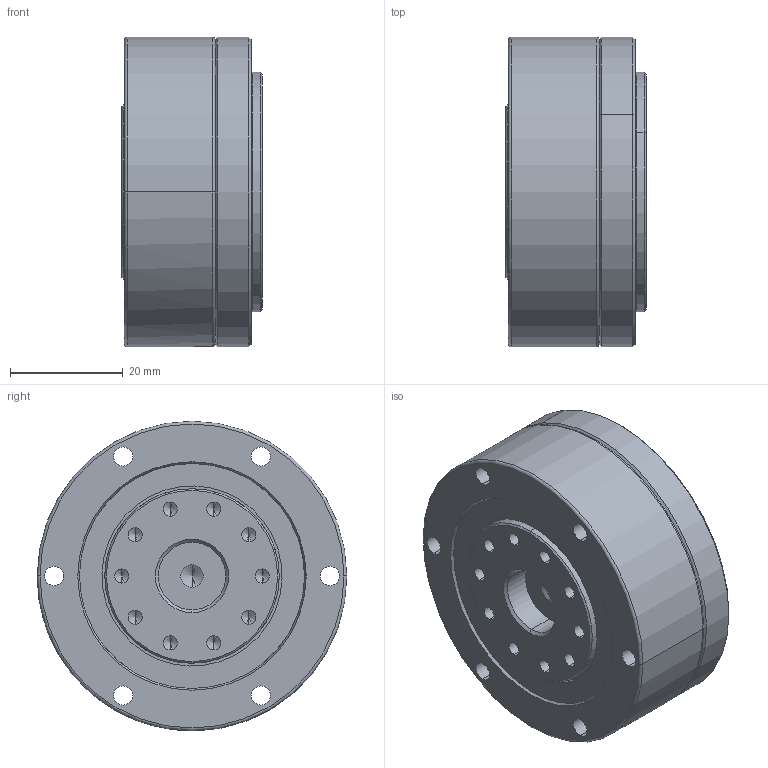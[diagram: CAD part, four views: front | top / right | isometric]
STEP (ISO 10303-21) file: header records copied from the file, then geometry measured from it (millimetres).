
FILE_DESCRIPTION (( 'STEP AP214' ), '1' );
FILE_NAME ('CSD-14-xxx.STEP', '2021-07-17T03:15:06', ( 'PC' ), ( 'Microsoft' ), 'SwSTEP 2.0', 'SolidWorks 2016', '' );
FILE_SCHEMA (( 'AUTOMOTIVE_DESIGN' ));
Length unit declared in the file: millimetre
Products named in the file (13): CSD-14-xxx; 内六角圆柱头螺钉M2×6_預設; hexagon socket head cap screws gb_GB_FASTENER_SCREWS_HSHCS M3X10-N; 14-疏楷汜ん; 芧謫CSD-14; 薄-14柔性轴承; 14-柔轮; 14-詩謫; CSD-14蝠脫粣創; 14-蝠脫粣創黑芛; 蝠脫粣創-蚐猾-CSF-14; 14-交叉轴承外圈; 14-交叉轴承内圈
Assembly tree (19 placements, depth 3):
  CSD-14-xxx
    CSD-14蝠脫粣創
      14-交叉轴承内圈
      14-交叉轴承外圈
      蝠脫粣創-蚐猾-CSF-14
      14-蝠脫粣創黑芛
    14-詩謫
    14-柔轮
    14-疏楷汜ん
      薄-14柔性轴承
      芧謫CSD-14
    hexagon socket head cap screws gb_GB_FASTENER_SCREWS_HSHCS M3X10-N  x6
    内六角圆柱头螺钉M2×6_預設  x3
Bounding box: 25 x 55 x 55 mm (x, y, z)
Volume: 43351.3 mm3; surface area: 32136.1 mm2
Topology: 17 solids, 17 shells, 584 faces, 1352 edges, 804 vertices
Faces by surface type: cylinder 211, plane 168, cone 147, torus 42, bspline 16
Entity records: 13765 total; most frequent: CARTESIAN_POINT 2625, DIRECTION 2308, ORIENTED_EDGE 1876, AXIS2_PLACEMENT_3D 968, EDGE_CURVE 938, VERTEX_POINT 583, CIRCLE 533, EDGE_LOOP 527
